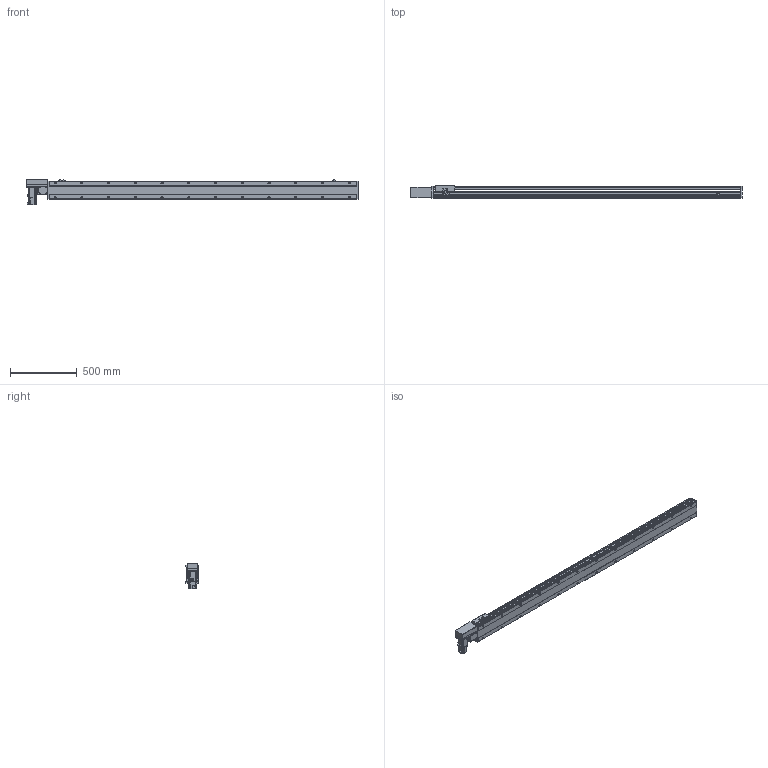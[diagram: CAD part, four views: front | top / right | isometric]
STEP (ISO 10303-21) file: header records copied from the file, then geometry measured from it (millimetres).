
FILE_DESCRIPTION( ( 'STEP AP214' ), '1' );
FILE_NAME( 'x:/temp/worker_6/temp/exporttempdir_5396_69_TYuhD/format_0/PBS140S-P40-S2050-R-T40-C1-N(0).stp', '2022-06-09T00:18:29', ( 'License CC BY-ND 4.0' ), ( 'CADENAS' ), ' ', 'PARTsolutions', ' ' );
FILE_SCHEMA( ( 'AUTOMOTIVE_DESIGN { 1 0 10303 214 1 1 1 1 }' ) );
Length unit declared in the file: millimetre
Products named in the file (7): PBS140S-P40-S2050-R-T40-C1-N(0); _PBS140S-S2050()_body; _PBS140ST-R_motors; _T40-p1; _PBS140S_sliser; _PBS140S_plant; _PBS140S_sensor
Assembly tree (8 placements, depth 2):
  PBS140S-P40-S2050-R-T40-C1-N(0)
    _PBS140S-S2050()_body
    _PBS140ST-R_motors
    _T40-p1
    _PBS140S_sliser
    _PBS140S_plant
    _PBS140S_sensor  x3
Bounding box: 2483 x 93 x 189.7 mm (x, y, z)
Volume: 11822266.6 mm3; surface area: 2000944.8 mm2
Topology: 8 solids, 8 shells, 1163 faces, 3071 edges, 2009 vertices
Faces by surface type: plane 726, cylinder 377, cone 50, sphere 8, torus 2
Full cylindrical faces by diameter (mm): 3.242 x4, 4 x2, 4.134 x4, 4.4 x8, 4.5 x2, 4.8 x4, 4.917 x32, 5.5 x7, 6 x2, 7 x26, 7.5 x8, 8 x12, 8.5 x4, 10.5 x24, 14 x1, 30 x2, 50 x2
Entity records: 42904 total; most frequent: CARTESIAN_POINT 7078, DIRECTION 5628, ORIENTED_EDGE 5302, EDGE_CURVE 2651, AXIS2_PLACEMENT_3D 1979, VERTEX_POINT 1849, LINE 1670, VECTOR 1670
